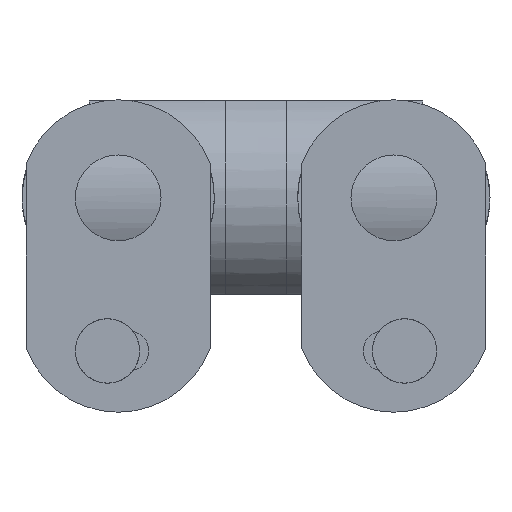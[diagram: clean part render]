
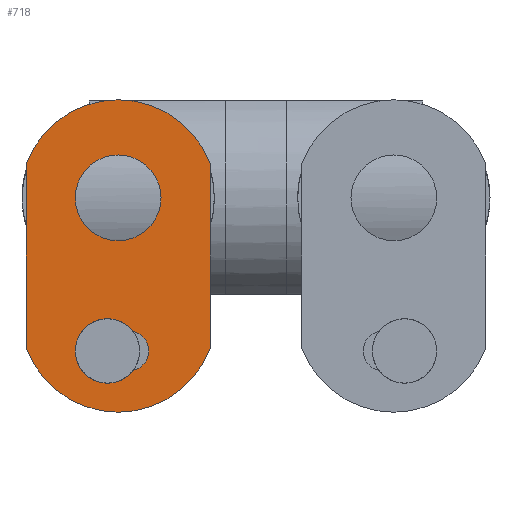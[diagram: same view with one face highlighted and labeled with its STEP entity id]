
A CAD part, front view. The second image highlights one B-rep face of the part: STEP entity #718.
In plain terms, the highlighted planar face has unit normal (0, -1, 0).
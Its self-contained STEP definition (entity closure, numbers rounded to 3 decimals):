
#203=FACE_BOUND('',#1570,.T.);
#204=FACE_BOUND('',#1571,.T.);
#479=PLANE('',#6365);
#718=ADVANCED_FACE('',(#203,#204,#1214),#479,.T.);
#1214=FACE_OUTER_BOUND('',#1572,.T.);
#1570=EDGE_LOOP('',(#3225,#3226,#3227,#3228));
#1571=EDGE_LOOP('',(#3229,#3230));
#1572=EDGE_LOOP('',(#3231,#3232,#3233,#3234));
#2042=CIRCLE('',#6359,3.25);
#2043=CIRCLE('',#6360,3.25);
#2044=CIRCLE('',#6361,7.);
#2045=CIRCLE('',#6362,7.);
#2046=CIRCLE('',#6363,16.);
#2047=CIRCLE('',#6364,16.);
#3225=ORIENTED_EDGE('',*,*,#5034,.F.);
#3226=ORIENTED_EDGE('',*,*,#5035,.F.);
#3227=ORIENTED_EDGE('',*,*,#5036,.F.);
#3228=ORIENTED_EDGE('',*,*,#5037,.F.);
#3229=ORIENTED_EDGE('',*,*,#5038,.F.);
#3230=ORIENTED_EDGE('',*,*,#5039,.F.);
#3231=ORIENTED_EDGE('',*,*,#5040,.F.);
#3232=ORIENTED_EDGE('',*,*,#5041,.F.);
#3233=ORIENTED_EDGE('',*,*,#5042,.F.);
#3234=ORIENTED_EDGE('',*,*,#5043,.F.);
#4261=VERTEX_POINT('',#16808);
#4262=VERTEX_POINT('',#16809);
#4263=VERTEX_POINT('',#16811);
#4264=VERTEX_POINT('',#16813);
#4265=VERTEX_POINT('',#16816);
#4266=VERTEX_POINT('',#16817);
#4267=VERTEX_POINT('',#16820);
#4268=VERTEX_POINT('',#16821);
#4269=VERTEX_POINT('',#16823);
#4270=VERTEX_POINT('',#16825);
#5034=EDGE_CURVE('',#4261,#4262,#2042,.T.);
#5035=EDGE_CURVE('',#4263,#4261,#5584,.T.);
#5036=EDGE_CURVE('',#4264,#4263,#2043,.T.);
#5037=EDGE_CURVE('',#4262,#4264,#5585,.T.);
#5038=EDGE_CURVE('',#4265,#4266,#2044,.T.);
#5039=EDGE_CURVE('',#4266,#4265,#2045,.T.);
#5040=EDGE_CURVE('',#4267,#4268,#2046,.T.);
#5041=EDGE_CURVE('',#4269,#4267,#5586,.T.);
#5042=EDGE_CURVE('',#4270,#4269,#2047,.T.);
#5043=EDGE_CURVE('',#4268,#4270,#5587,.T.);
#5584=LINE('',#16810,#5922);
#5585=LINE('',#16814,#5923);
#5586=LINE('',#16822,#5924);
#5587=LINE('',#16826,#5925);
#5922=VECTOR('',#7363,1.);
#5923=VECTOR('',#7366,1.);
#5924=VECTOR('',#7373,1.);
#5925=VECTOR('',#7376,1.);
#6359=AXIS2_PLACEMENT_3D('',#16807,#7361,#7362);
#6360=AXIS2_PLACEMENT_3D('',#16812,#7364,#7365);
#6361=AXIS2_PLACEMENT_3D('',#16815,#7367,#7368);
#6362=AXIS2_PLACEMENT_3D('',#16818,#7369,#7370);
#6363=AXIS2_PLACEMENT_3D('',#16819,#7371,#7372);
#6364=AXIS2_PLACEMENT_3D('',#16824,#7374,#7375);
#6365=AXIS2_PLACEMENT_3D('',#16827,#7377,#7378);
#7361=DIRECTION('',(0.,-1.,0.));
#7362=DIRECTION('',(0.,0.,1.));
#7363=DIRECTION('',(-1.,0.,0.));
#7364=DIRECTION('',(0.,-1.,0.));
#7365=DIRECTION('',(0.,0.,-1.));
#7366=DIRECTION('',(1.,0.,0.));
#7367=DIRECTION('',(0.,-1.,0.));
#7368=DIRECTION('',(-1.,0.,0.));
#7369=DIRECTION('',(0.,-1.,0.));
#7370=DIRECTION('',(1.,0.,0.));
#7371=DIRECTION('',(0.,1.,0.));
#7372=DIRECTION('',(0.938,0.,-0.348));
#7373=DIRECTION('',(0.,0.,-1.));
#7374=DIRECTION('',(0.,1.,0.));
#7375=DIRECTION('',(-0.938,0.,0.348));
#7376=DIRECTION('',(0.,0.,1.));
#7377=DIRECTION('',(0.,-1.,0.));
#7378=DIRECTION('',(0.,0.,-1.));
#16807=CARTESIAN_POINT('',(-215.85,-363.9,-169.189));
#16808=CARTESIAN_POINT('',(-215.85,-363.9,-165.939));
#16809=CARTESIAN_POINT('',(-215.85,-363.9,-172.439));
#16810=CARTESIAN_POINT('',(-212.35,-363.9,-165.939));
#16811=CARTESIAN_POINT('',(-212.35,-363.9,-165.939));
#16812=CARTESIAN_POINT('',(-212.35,-363.9,-169.189));
#16813=CARTESIAN_POINT('',(-212.35,-363.9,-172.439));
#16814=CARTESIAN_POINT('',(-215.85,-363.9,-172.439));
#16815=CARTESIAN_POINT('',(-214.1,-363.9,-144.189));
#16816=CARTESIAN_POINT('',(-221.1,-363.9,-144.189));
#16817=CARTESIAN_POINT('',(-207.1,-363.9,-144.189));
#16818=CARTESIAN_POINT('',(-214.1,-363.9,-144.189));
#16819=CARTESIAN_POINT('',(-214.1,-363.9,-163.189));
#16820=CARTESIAN_POINT('',(-199.1,-363.9,-168.756));
#16821=CARTESIAN_POINT('',(-229.1,-363.9,-168.756));
#16822=CARTESIAN_POINT('',(-199.1,-363.9,-138.621));
#16823=CARTESIAN_POINT('',(-199.1,-363.9,-138.621));
#16824=CARTESIAN_POINT('',(-214.1,-363.9,-144.189));
#16825=CARTESIAN_POINT('',(-229.1,-363.9,-138.621));
#16826=CARTESIAN_POINT('',(-229.1,-363.9,-168.756));
#16827=CARTESIAN_POINT('',(-214.1,-363.9,-153.689));
